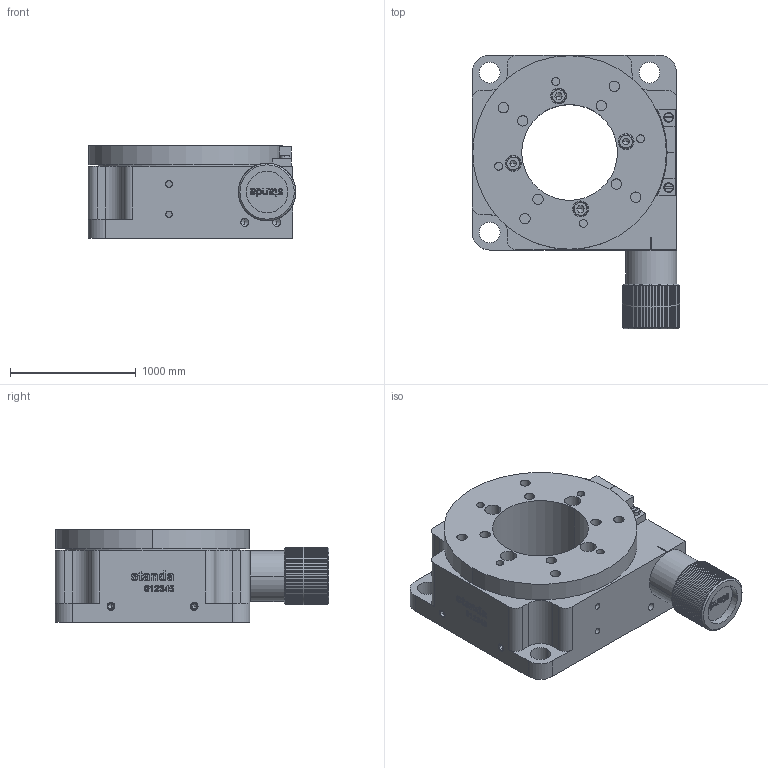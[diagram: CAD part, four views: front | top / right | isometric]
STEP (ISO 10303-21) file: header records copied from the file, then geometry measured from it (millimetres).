
FILE_DESCRIPTION (( 'STEP AP203' ), '1' );
FILE_NAME ('7R150-30.STEP', '2008-11-26T05:16:27', ( 'Darius' ), ( '' ), 'SwSTEP 2.0', 'SolidWorks 2003240', '' );
FILE_SCHEMA (( 'CONFIG_CONTROL_DESIGN' ));
Length unit declared in the file: inch
Products named in the file (1): 7R150-30
Bounding box: 1651 x 2176.78 x 736.6 mm (x, y, z)
Volume: 1361138766.7 mm3; surface area: 13571283.1 mm2
Topology: 1 solids, 11 shells, 1063 faces, 2403 edges, 1422 vertices
Faces by surface type: plane 651, bspline 207, cylinder 139, cone 66
Entity records: 37280 total; most frequent: CARTESIAN_POINT 14882, ORIENTED_EDGE 4766, DIRECTION 4199, EDGE_CURVE 2383, AXIS2_PLACEMENT_3D 1469, VERTEX_POINT 1422, VECTOR 1261, LINE 1261
